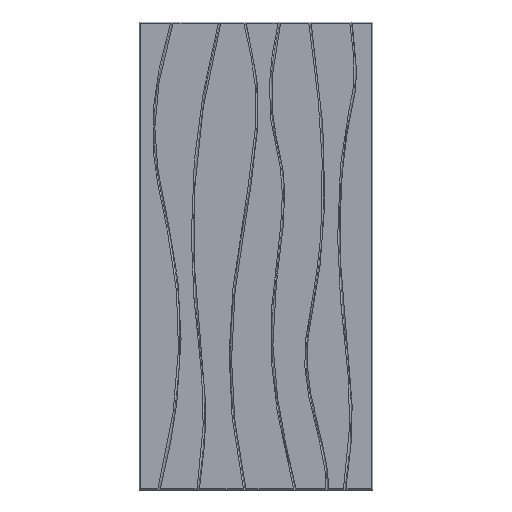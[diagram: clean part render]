
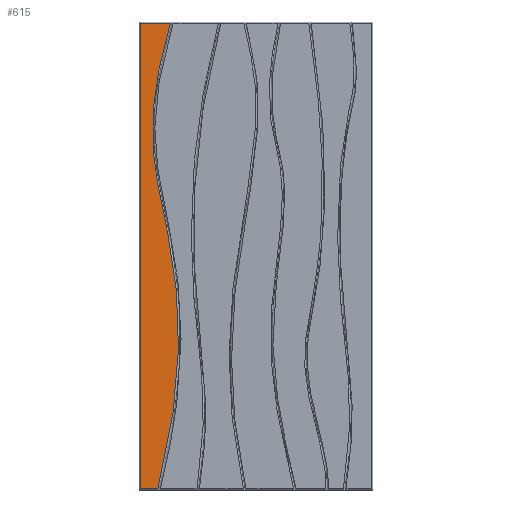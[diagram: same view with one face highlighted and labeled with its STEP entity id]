
A CAD part, top view. The second image highlights one B-rep face of the part: STEP entity #615.
In plain terms, the highlighted planar face has unit normal (0, 0, 1).
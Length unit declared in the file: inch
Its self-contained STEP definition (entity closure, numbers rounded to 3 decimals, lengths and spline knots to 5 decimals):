
#52=FACE_OUTER_BOUND('',#93,.T.);
#93=EDGE_LOOP('',(#483,#484,#485,#486));
#148=B_SPLINE_CURVE_WITH_KNOTS('',3,(#8118,#8119,#8120,#8121,#8122,#8123,
#8124,#8125,#8126,#8127,#8128,#8129,#8130,#8131,#8132,#8133,#8134,#8135,
#8136,#8137,#8138,#8139,#8140,#8141,#8142,#8143,#8144,#8145,#8146,#8147,
#8148,#8149,#8150,#8151,#8152,#8153,#8154,#8155,#8156,#8157,#8158,#8159,
#8160,#8161,#8162,#8163,#8164,#8165,#8166,#8167,#8168,#8169,#8170,#8171,
#8172,#8173,#8174,#8175,#8176,#8177,#8178,#8179,#8180,#8181,#8182,#8183,
#8184,#8185,#8186,#8187,#8188,#8189,#8190,#8191,#8192),.UNSPECIFIED.,.F.,
 .F.,(4,1,1,1,1,1,1,1,1,1,1,1,1,1,1,1,1,1,1,1,1,1,1,1,1,1,1,1,1,1,1,1,1,
1,1,1,1,1,1,1,1,1,1,1,1,1,1,1,1,1,1,1,1,1,1,1,1,1,1,1,1,1,1,1,1,1,1,1,1,
1,1,1,4),(-97.5662,-97.5203,-97.47675,-97.38965,
-97.3461,-97.259,-97.21545,-97.08479,
-96.99769,-96.82349,-85.09052,-83.29647,
-82.37589,-80.48338,-79.51145,-77.51174,
-76.48396,-74.36781,-73.27944,-71.03723,
-69.88339,-67.50525,-66.28095,-63.75693,
-59.77739,-58.39731,-55.55201,-54.08679,
-51.06698,-49.51238,-47.13447,-46.31116,
-44.66453,-43.84121,-42.58371,-42.14951,
-41.49822,-41.28113,-40.84694,-40.62984,
-39.54436,-38.67597,-36.90046,-35.99333,
-34.17907,-33.27194,-30.50866,-28.65251,
-24.948,-23.09965,-19.461,-17.6707,
-15.03285,-14.18531,-11.64268,-10.0044,
-9.21366,-8.02756,-7.6322,-6.84146,
-6.4461,-5.50088,-4.95103,-4.12626,
-3.30149,-2.47672,-2.20179,-1.7894,
-1.65194,-1.37702,-1.23956,-0.96463,
-0.84341),.UNSPECIFIED.);
#169=LINE('',#8604,#215);
#176=LINE('',#8616,#222);
#177=LINE('',#8617,#223);
#215=VECTOR('',#723,0.3937);
#222=VECTOR('',#736,0.3937);
#223=VECTOR('',#737,0.3937);
#281=VERTEX_POINT('',#7635);
#283=VERTEX_POINT('',#8104);
#286=VERTEX_POINT('',#8603);
#288=VERTEX_POINT('',#8615);
#350=EDGE_CURVE('',#281,#283,#148,.T.);
#354=EDGE_CURVE('',#281,#286,#169,.T.);
#361=EDGE_CURVE('',#288,#283,#176,.T.);
#362=EDGE_CURVE('',#286,#288,#177,.T.);
#483=ORIENTED_EDGE('',*,*,#350,.T.);
#484=ORIENTED_EDGE('',*,*,#361,.F.);
#485=ORIENTED_EDGE('',*,*,#362,.F.);
#486=ORIENTED_EDGE('',*,*,#354,.F.);
#574=PLANE('',#666);
#615=ADVANCED_FACE('',(#52),#574,.T.);
#666=AXIS2_PLACEMENT_3D('',#8614,#734,#735);
#723=DIRECTION('',(-1.,0.,0.));
#734=DIRECTION('center_axis',(0.,0.,1.));
#735=DIRECTION('ref_axis',(1.,0.,0.));
#736=DIRECTION('',(1.,0.,0.));
#737=DIRECTION('',(0.,1.,0.));
#7635=CARTESIAN_POINT('',(4.91024,1.28689,0.5));
#8104=CARTESIAN_POINT('',(7.48926,96.78689,0.5));
#8118=CARTESIAN_POINT('Ctrl Pts',(4.91024,1.28689,0.5));
#8119=CARTESIAN_POINT('Ctrl Pts',(4.91729,1.31471,0.5));
#8120=CARTESIAN_POINT('Ctrl Pts',(4.93101,1.3689,0.5));
#8121=CARTESIAN_POINT('Ctrl Pts',(4.95802,1.47576,0.5));
#8122=CARTESIAN_POINT('Ctrl Pts',(4.98455,1.58109,0.5));
#8123=CARTESIAN_POINT('Ctrl Pts',(5.01758,1.71258,0.5));
#8124=CARTESIAN_POINT('Ctrl Pts',(5.04389,1.81766,0.5));
#8125=CARTESIAN_POINT('Ctrl Pts',(5.08319,1.97508,0.5));
#8126=CARTESIAN_POINT('Ctrl Pts',(5.12227,2.13225,0.5));
#8127=CARTESIAN_POINT('Ctrl Pts',(5.18049,2.36754,0.5));
#8128=CARTESIAN_POINT('Ctrl Pts',(6.94668,9.55048,0.5));
#8129=CARTESIAN_POINT('Ctrl Pts',(8.18146,16.86462,0.5));
#8130=CARTESIAN_POINT('Ctrl Pts',(8.805,23.69719,0.5));
#8131=CARTESIAN_POINT('Ctrl Pts',(8.96295,25.82154,0.5));
#8132=CARTESIAN_POINT('Ctrl Pts',(9.05901,27.52124,0.5));
#8133=CARTESIAN_POINT('Ctrl Pts',(9.14134,29.64807,0.5));
#8134=CARTESIAN_POINT('Ctrl Pts',(9.17525,31.34873,0.5));
#8135=CARTESIAN_POINT('Ctrl Pts',(9.17812,33.47553,0.5));
#8136=CARTESIAN_POINT('Ctrl Pts',(9.1472,35.175,0.5));
#8137=CARTESIAN_POINT('Ctrl Pts',(9.06792,37.29894,0.5));
#8138=CARTESIAN_POINT('Ctrl Pts',(8.97068,38.99488,0.5));
#8139=CARTESIAN_POINT('Ctrl Pts',(8.80845,41.11299,0.5));
#8140=CARTESIAN_POINT('Ctrl Pts',(8.64528,42.80309,0.5));
#8141=CARTESIAN_POINT('Ctrl Pts',(8.40219,44.91265,0.5));
#8142=CARTESIAN_POINT('Ctrl Pts',(8.05633,47.4881,0.5));
#8143=CARTESIAN_POINT('Ctrl Pts',(7.64858,49.97474,0.5));
#8144=CARTESIAN_POINT('Ctrl Pts',(7.19672,52.4565,0.5));
#8145=CARTESIAN_POINT('Ctrl Pts',(6.87201,54.1224,0.5));
#8146=CARTESIAN_POINT('Ctrl Pts',(6.44895,56.20304,0.5));
#8147=CARTESIAN_POINT('Ctrl Pts',(6.10072,57.86463,0.5));
#8148=CARTESIAN_POINT('Ctrl Pts',(5.71106,59.72342,0.5));
#8149=CARTESIAN_POINT('Ctrl Pts',(5.45436,60.96565,0.5));
#8150=CARTESIAN_POINT('Ctrl Pts',(5.20504,62.21066,0.5));
#8151=CARTESIAN_POINT('Ctrl Pts',(5.04289,63.04583,0.5));
#8152=CARTESIAN_POINT('Ctrl Pts',(4.86927,63.98039,0.5));
#8153=CARTESIAN_POINT('Ctrl Pts',(4.75824,64.60522,0.5));
#8154=CARTESIAN_POINT('Ctrl Pts',(4.66,65.18337,0.5));
#8155=CARTESIAN_POINT('Ctrl Pts',(4.60731,65.50343,0.5));
#8156=CARTESIAN_POINT('Ctrl Pts',(4.55624,65.82248,0.5));
#8157=CARTESIAN_POINT('Ctrl Pts',(4.52302,66.03466,0.5));
#8158=CARTESIAN_POINT('Ctrl Pts',(4.45825,66.45802,0.5));
#8159=CARTESIAN_POINT('Ctrl Pts',(4.38144,66.98478,0.5));
#8160=CARTESIAN_POINT('Ctrl Pts',(4.26025,67.88408,0.5));
#8161=CARTESIAN_POINT('Ctrl Pts',(4.15878,68.7339,0.5));
#8162=CARTESIAN_POINT('Ctrl Pts',(4.04834,69.80366,0.5));
#8163=CARTESIAN_POINT('Ctrl Pts',(3.97406,70.66238,0.5));
#8164=CARTESIAN_POINT('Ctrl Pts',(3.88443,71.956,0.5));
#8165=CARTESIAN_POINT('Ctrl Pts',(3.82499,73.2552,0.5));
#8166=CARTESIAN_POINT('Ctrl Pts',(3.79475,75.21323,0.5));
#8167=CARTESIAN_POINT('Ctrl Pts',(3.83189,76.96404,0.5));
#8168=CARTESIAN_POINT('Ctrl Pts',(3.95856,79.16265,0.5));
#8169=CARTESIAN_POINT('Ctrl Pts',(4.12239,80.93068,0.5));
#8170=CARTESIAN_POINT('Ctrl Pts',(4.37467,82.93453,0.5));
#8171=CARTESIAN_POINT('Ctrl Pts',(4.57762,84.27224,0.5));
#8172=CARTESIAN_POINT('Ctrl Pts',(4.84401,85.8301,0.5));
#8173=CARTESIAN_POINT('Ctrl Pts',(5.09429,87.15477,0.5));
#8174=CARTESIAN_POINT('Ctrl Pts',(5.37631,88.49983,0.5));
#8175=CARTESIAN_POINT('Ctrl Pts',(5.59606,89.49411,0.5));
#8176=CARTESIAN_POINT('Ctrl Pts',(5.74813,90.15555,0.5));
#8177=CARTESIAN_POINT('Ctrl Pts',(5.90652,90.82458,0.5));
#8178=CARTESIAN_POINT('Ctrl Pts',(6.01529,91.27447,0.5));
#8179=CARTESIAN_POINT('Ctrl Pts',(6.16614,91.88616,0.5));
#8180=CARTESIAN_POINT('Ctrl Pts',(6.30425,92.43421,0.5));
#8181=CARTESIAN_POINT('Ctrl Pts',(6.47962,93.11456,0.5));
#8182=CARTESIAN_POINT('Ctrl Pts',(6.65105,93.76654,0.5));
#8183=CARTESIAN_POINT('Ctrl Pts',(6.85088,94.50971,0.5));
#8184=CARTESIAN_POINT('Ctrl Pts',(7.01176,95.09551,0.5));
#8185=CARTESIAN_POINT('Ctrl Pts',(7.14102,95.55998,0.5));
#8186=CARTESIAN_POINT('Ctrl Pts',(7.2125,95.81477,0.5));
#8187=CARTESIAN_POINT('Ctrl Pts',(7.28477,96.07073,0.5));
#8188=CARTESIAN_POINT('Ctrl Pts',(7.33334,96.24196,0.5));
#8189=CARTESIAN_POINT('Ctrl Pts',(7.39454,96.45674,0.5));
#8190=CARTESIAN_POINT('Ctrl Pts',(7.44244,96.62408,0.5));
#8191=CARTESIAN_POINT('Ctrl Pts',(7.47827,96.74871,0.5));
#8192=CARTESIAN_POINT('Ctrl Pts',(7.48926,96.78689,0.5));
#8603=CARTESIAN_POINT('',(1.29661,1.28689,0.5));
#8604=CARTESIAN_POINT('',(13.04661,1.28689,0.5));
#8614=CARTESIAN_POINT('Origin',(25.04661,49.03689,0.5));
#8615=CARTESIAN_POINT('',(1.29661,96.78689,0.5));
#8616=CARTESIAN_POINT('',(37.04661,96.78689,0.5));
#8617=CARTESIAN_POINT('',(1.29661,73.03689,0.5));
